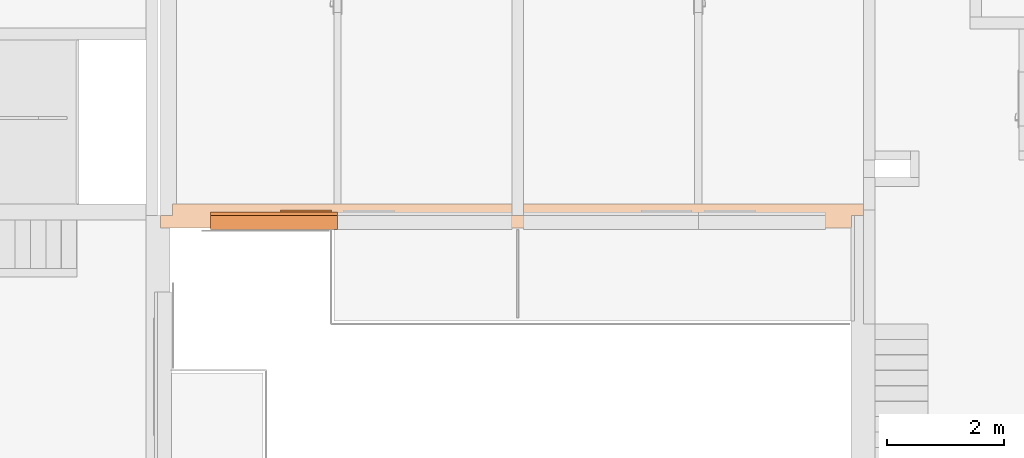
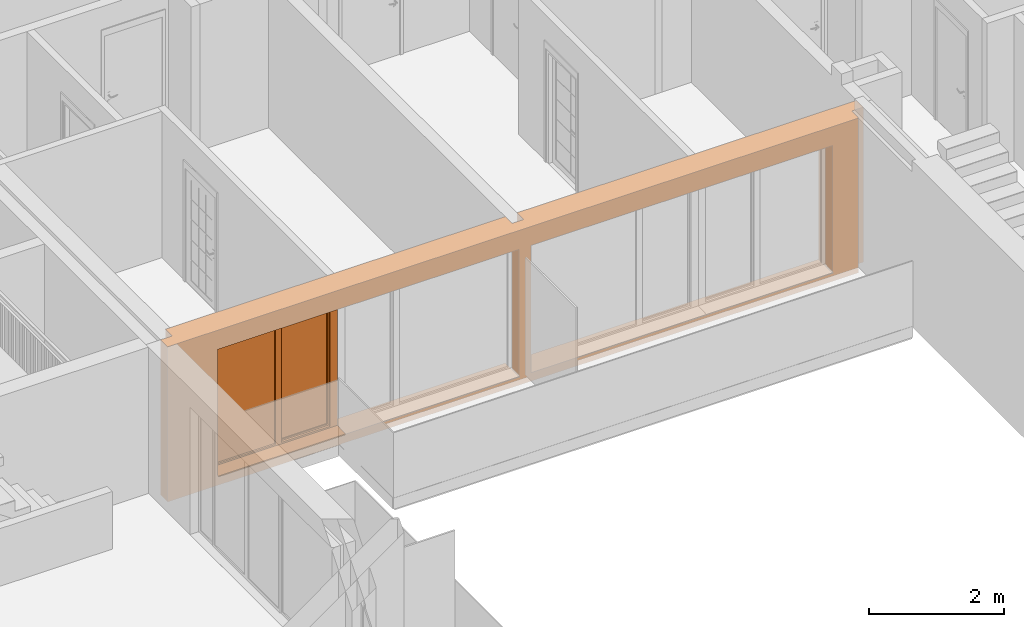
# One storey, part 42 of 61: 1 proxy, 4 openings, plus 1 element that does not belong to this part.
"""IFC2X3 building model written with IfcOpenShell, lengths in millimetres."""

from ifc_helpers import new_model, entity, si_unit, converted_unit, derived_unit, money_unit, direction, frame, origin_with_axes, origin_2d_with_axis, place, context, subcontext, project, spatial, rectangle, extrude, open_shell, faceted_brep, surface_model, source, transform, mapped, material, material_list, type_object, element, fill, save


model = new_model("IFC2X3")

# Units and contexts
model_context = context("Model", 3, precision=0.01, world=origin_with_axes(), true_north=direction((0.34421633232, 0.938890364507)))
body_context = subcontext(model_context, "Body", "Model", "MODEL_VIEW")
ifc_project = project(units=[si_unit("LENGTHUNIT", "METRE", prefix="MILLI"), si_unit("AREAUNIT", "SQUARE_METRE"), si_unit("VOLUMEUNIT", "CUBIC_METRE"), converted_unit("PLANEANGLEUNIT", "DEGREE", entity("IfcPlaneAngleMeasure", 0.0174532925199), si_unit("PLANEANGLEUNIT", "RADIAN"), dimensions=[0, 0, 0, 0, 0, 0, 0]), si_unit("SOLIDANGLEUNIT", "STERADIAN"), money_unit("USD"), converted_unit("TIMEUNIT", "Year", entity("IfcTimeMeasure", 31556926.0), si_unit("TIMEUNIT", "SECOND"), dimensions=[0, 0, 1, 0, 0, 0, 0]), si_unit("MASSUNIT", "GRAM", prefix="KILO"), si_unit("THERMODYNAMICTEMPERATUREUNIT", "DEGREE_CELSIUS"), si_unit("LUMINOUSINTENSITYUNIT", "LUMEN"), si_unit("ENERGYUNIT", "JOULE", prefix="MEGA"), derived_unit("THERMALCONDUCTANCEUNIT", [(si_unit("POWERUNIT", "WATT"), 1), (si_unit("LENGTHUNIT", "METRE"), -1), (si_unit("THERMODYNAMICTEMPERATUREUNIT", "KELVIN"), -1)]), derived_unit("SPECIFICHEATCAPACITYUNIT", [(si_unit("ENERGYUNIT", "JOULE"), 1), (si_unit("MASSUNIT", "GRAM", prefix="KILO"), -1), (si_unit("THERMODYNAMICTEMPERATUREUNIT", "KELVIN"), -1)]), derived_unit("MASSDENSITYUNIT", [(si_unit("MASSUNIT", "GRAM", prefix="KILO"), 1), (si_unit("VOLUMEUNIT", "CUBIC_METRE"), -1)])], contexts=[model_context])

# Site, building, storey
site_placement = place(None, origin_with_axes())
site = spatial("IfcSite", under=ifc_project, at=site_placement, Name="USTRONIE MORSKIE", CompositionType="ELEMENT")
building_placement = place(site_placement, origin_with_axes())
building = spatial("IfcBuilding", under=site, at=building_placement, Name="Budynek", CompositionType="ELEMENT")
storey_placement = place(building_placement, frame((0.0, 0.0, 13000.0), z_axis=(0.0, 0.0, 1.0), x_axis=(1.0, 0.0, 0.0)))
storey = spatial("IfcBuildingStorey", under=building, at=storey_placement, Name="PIĘTRO 4", CompositionType="ELEMENT", Elevation=13000.0)

# Proxies, openings
ifc_material_1 = material(Name="Tynk zewnętrzny")
ifc_material_2 = material(Name="Wełna ELEW")
ifc_material_3 = material(Name="Beton konstrukcyjny B25")
ifc_material_list = material_list([ifc_material_1, ifc_material_2, ifc_material_3])
building_element_proxy_type_1 = type_object("IfcBuildingElementProxyType", Name="20+20 410", PredefinedType="NOTDEFINED")
proxy_1_placement = place(storey_placement, frame((379317.920919, 726901.199036, -160.0), z_axis=(0.0, 0.0, 1.0), x_axis=(-1.0, 0.0, 0.0)))
proxy_1 = element("IfcBuildingElementProxy", 1, at=proxy_1_placement, inside=storey, type_object=building_element_proxy_type_1, material=ifc_material_list, Name="SZ-01", context=body_context, shape_type="Brep", body=[
    faceted_brep([(12100.0, 300.0, 2800.00000171), (310.0, 300.0, 2800.00000171), (310.0, 300.0, 110.0), (9139.98064962, 300.0, 110.0), (9139.98064962, 300.0, 85.0), (9139.98064962, 300.0, 5.0), (9139.98064962, 300.0, 0.0), (12100.0, 300.0, 0.0), (310.0, 310.0, 2800.00000171), (12100.0, 310.0, 2800.00000171), (310.0, 310.0, 110.0), (9139.98064962, 310.0, 110.0), (9139.98064962, 310.0, 85.0), (9139.98064962, 310.0, 5.0), (9139.98064962, 310.0, 0.0), (12100.0, 310.0, 0.0)], [[[0, 1, 2, 3, 4, 5, 6, 7]], [[8, 1, 0, 9]], [[1, 8, 10, 2]], [[3, 2, 10, 11]], [[4, 3, 11, 12]], [[4, 12, 13, 5]], [[5, 13, 14, 6]], [[6, 14, 15, 7]], [[9, 0, 7, 15]], [[8, 9, 15, 14, 13, 12, 11, 10]]]),
    faceted_brep([(12100.0, 100.0, 2800.00000171), (300.0, 100.0, 2800.00000171), (300.0, 100.0, 0.0), (12100.0, 100.0, 0.0), (300.0, 300.0, 2800.00000171), (12100.0, 300.0, 2800.00000171), (300.0, 300.0, 0.0), (12100.0, 300.0, 0.0)], [[[0, 1, 2, 3]], [[4, 1, 0, 5]], [[1, 4, 6, 2]], [[3, 2, 6, 7]], [[5, 0, 3, 7]], [[4, 5, 7, 6]]]),
    faceted_brep([(11900.0, -100.0, 2800.0), (6100.0, -100.0, 2800.0), (6100.0, -100.0, 0.0), (11900.0, -100.0, 0.0), (6100.0, 100.0, 2800.0), (11900.0, 100.0, 2800.0), (6100.0, 100.0, 0.0), (11900.0, 100.0, 0.0)], [[[0, 1, 2, 3]], [[4, 1, 0, 5]], [[1, 4, 6, 2]], [[3, 2, 6, 7]], [[5, 0, 3, 7]], [[4, 5, 7, 6]]]),
    faceted_brep([(5900.0, -100.0, 2800.0), (100.0, -100.0, 2800.0), (100.0, -100.0, 0.0), (5900.0, -100.0, 0.0), (100.0, 0.0, 2800.0), (5900.0, 100.0, 2800.0), (100.0, 100.0, 2800.0), (100.0, 0.0, 0.0), (100.0, 100.0, 0.0), (5900.0, 100.0, 0.0)], [[[0, 1, 2, 3]], [[4, 1, 0, 5, 6]], [[1, 4, 7, 2]], [[2, 7, 8, 9, 3]], [[5, 0, 3, 9]], [[6, 5, 9, 8]], [[4, 6, 8, 7]]]),
])
opening_1_placement = place(proxy_1_placement, frame((4410.00967519, 0.0, 160.0), z_axis=(0.0, 0.0, 1.0), x_axis=(1.0, 0.0, 0.0)))
element("IfcOpeningElement", 2, at=opening_1_placement, cuts=proxy_1, Name="Wz.05", context=body_context, shape_type="SweptSolid", body=[
    extrude(rectangle(XDim=2979.98064962, YDim=2300.0, at=origin_2d_with_axis()), frame((0.0, 99.9999999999, 1150.0), z_axis=(0.0, -1.0, 0.0), x_axis=(-1.0, 0.0, 0.0)), (0.0, 0.0, -1.0), 620.0),
    extrude(rectangle(XDim=2979.98064962, YDim=2300.0, at=origin_2d_with_axis()), frame((0.0, 100.0, 1150.0), z_axis=(0.0, 1.0, 0.0), x_axis=(-1.0, 0.0, 0.0)), (0.0, 0.0, -1.0), 610.0),
])
opening_2_placement = place(proxy_1_placement, frame((1835.01935038, 0.0, 160.0), z_axis=(0.0, 0.0, 1.0), x_axis=(1.0, 0.0, 0.0)))
element("IfcOpeningElement", 3, at=opening_2_placement, cuts=proxy_1, Name="Wz.05", context=body_context, shape_type="SweptSolid", body=[
    extrude(rectangle(XDim=2170.0, YDim=2300.0, at=origin_2d_with_axis()), frame((0.0, 99.9999999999, 1150.0), z_axis=(0.0, 1.0, 0.0), x_axis=(1.0, 0.0, 0.0)), (0.0, 0.0, 1.0), 620.0),
    extrude(rectangle(XDim=2170.0, YDim=2300.0, at=origin_2d_with_axis()), frame((0.0, 100.0, 1150.0), z_axis=(0.0, -1.0, 0.0), x_axis=(1.0, 0.0, 0.0)), (0.0, 0.0, 1.0), 610.0),
])
opening_3_placement = place(proxy_1_placement, frame((7589.99032481, 0.0, 160.0), z_axis=(0.0, 0.0, 1.0), x_axis=(1.0, 0.0, 0.0)))
element("IfcOpeningElement", 4, at=opening_3_placement, cuts=proxy_1, Name="Wz.05", context=body_context, shape_type="SweptSolid", body=[
    extrude(rectangle(XDim=2979.98064962, YDim=2300.0, at=origin_2d_with_axis()), frame((0.0, 99.9999999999, 1150.0), z_axis=(0.0, 1.0, 0.0), x_axis=(1.0, 0.0, 0.0)), (0.0, 0.0, 1.0), 620.0),
    extrude(rectangle(XDim=2979.98064962, YDim=2300.0, at=origin_2d_with_axis()), frame((0.0, 100.0, 1150.0), z_axis=(0.0, -1.0, 0.0), x_axis=(1.0, 0.0, 0.0)), (0.0, 0.0, 1.0), 610.0),
])
opening_4_placement = place(proxy_1_placement, frame((10164.9806496, 0.0, 160.0), z_axis=(0.0, 0.0, 1.0), x_axis=(1.0, 0.0, 0.0)))
opening_4 = element("IfcOpeningElement", 5, at=opening_4_placement, cuts=proxy_1, Name="Wz.05", context=body_context, shape_type="SweptSolid", body=[
    extrude(rectangle(XDim=2170.0, YDim=2300.0, at=origin_2d_with_axis()), frame((0.0, 99.9999999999, 1150.0), z_axis=(0.0, -1.0, 0.0), x_axis=(-1.0, 0.0, 0.0)), (0.0, 0.0, -1.0), 620.0),
    extrude(rectangle(XDim=2170.0, YDim=2300.0, at=origin_2d_with_axis()), frame((0.0, 100.0, 1150.0), z_axis=(0.0, 1.0, 0.0), x_axis=(-1.0, 0.0, 0.0)), (0.0, 0.0, -1.0), 610.0),
])
building_element_proxy_type_2 = type_object("IfcBuildingElementProxyType", Name="Okno podwójne 23", PredefinedType="NOTDEFINED")
shared_shape = source(origin_with_axes(), body_context, "Body", "SurfaceModel", [
    surface_model("IfcShellBasedSurfaceModel", [(-1085.0, -61.0, 50.0), (-1085.0, -61.0, 40.0), (1085.0, -61.0, 40.0), (1085.0, -61.0, 50.0), (-1085.0, -300.0, 28.5714285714), (1085.0, -300.0, 28.5714285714), (-1085.0, -300.0, 8.57142857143), (1085.0, -300.0, 8.57142857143), (-1085.0, -290.0, 18.5714285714), (1085.0, -290.0, 18.5714285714)], [open_shell([[[0, 1, 2, 3]], [[1, 4, 5, 2]], [[4, 6, 7, 5]], [[6, 8, 9, 7]]])]),
    faceted_brep([(960.0, -20.0, 2235.0), (960.0, -60.0, 2235.0), (1085.0, -60.0, 2235.0), (1085.0, 0.0, 2235.0), (980.0, 0.0, 2235.0), (980.0, -20.0, 2235.0), (960.0, -20.0, 65.0), (960.0, -60.0, 65.0), (1085.0, -60.0, 65.0), (1085.0, 0.0, 65.0), (980.0, 0.0, 65.0), (980.0, -20.0, 65.0)], [[[0, 1, 2, 3, 4, 5]], [[6, 7, 1, 0]], [[8, 2, 1, 7]], [[9, 3, 2, 8]], [[4, 3, 9, 10]], [[10, 11, 5, 4]], [[5, 11, 6, 0]], [[11, 10, 9, 8, 7, 6]]]),
    faceted_brep([(110.0, 0.0, 2235.0), (30.0, 0.0, 2235.0), (30.0, -60.0, 2235.0), (130.0, -60.0, 2235.0), (130.0, -20.0, 2235.0), (110.0, -20.0, 2235.0), (110.0, 0.0, 65.0), (30.0, 0.0, 65.0), (30.0, -60.0, 65.0), (130.0, -60.0, 65.0), (130.0, -20.0, 65.0), (110.0, -20.0, 65.0)], [[[0, 1, 2, 3, 4, 5]], [[6, 7, 1, 0]], [[1, 7, 8, 2]], [[9, 3, 2, 8]], [[4, 3, 9, 10]], [[10, 11, 5, 4]], [[5, 11, 6, 0]], [[11, 10, 9, 8, 7, 6]]]),
    faceted_brep([(960.0, -20.0, 65.0), (960.0, -60.0, 65.0), (1085.0, -60.0, 65.0), (1085.0, 0.0, 65.0), (980.0, 0.0, 65.0), (980.0, -20.0, 65.0), (130.0, -20.0, 65.0), (130.0, -60.0, 65.0), (-1085.0, -60.0, 65.0), (-1085.0, -60.0, 0.0), (1085.0, -60.0, 0.0), (30.0, -60.0, 65.0), (-1020.0, -60.0, 65.0), (1085.0, 0.0, 0.0), (110.0, 0.0, 45.0), (980.0, 0.0, 45.0), (-1085.0, 0.0, 0.0), (-1085.0, 0.0, 65.0), (-1020.0, 0.0, 65.0), (30.0, 0.0, 65.0), (110.0, 0.0, 65.0), (980.0, -20.0, 45.0), (110.0, -20.0, 45.0), (110.0, -20.0, 65.0)], [[[0, 1, 2, 3, 4, 5]], [[6, 7, 1, 0]], [[8, 9, 10, 2, 1, 7, 11, 12]], [[13, 3, 2, 10]], [[14, 15, 4, 3, 13, 16, 17, 18, 19, 20]], [[15, 21, 5, 4]], [[5, 21, 22, 23, 6, 0]], [[23, 20, 19, 11, 7, 6]], [[17, 16, 9, 8]], [[16, 13, 10, 9]], [[19, 18, 12, 11]], [[18, 17, 8, 12]], [[14, 22, 21, 15]], [[23, 22, 14, 20]]]),
    faceted_brep([(110.0, 0.0, 2235.0), (30.0, 0.0, 2235.0), (-1020.0, 0.0, 2235.0), (-1085.0, 0.0, 2235.0), (-1085.0, 0.0, 2300.0), (1085.0, 0.0, 2300.0), (1085.0, 0.0, 2235.0), (980.0, 0.0, 2235.0), (980.0, 0.0, 2255.0), (110.0, 0.0, 2255.0), (110.0, -20.0, 2235.0), (130.0, -20.0, 2235.0), (130.0, -60.0, 2235.0), (30.0, -60.0, 2235.0), (-1020.0, -60.0, 2235.0), (-1085.0, -60.0, 2235.0), (-1085.0, -60.0, 2300.0), (1085.0, -60.0, 2300.0), (1085.0, -60.0, 2235.0), (980.0, -20.0, 2235.0), (960.0, -60.0, 2235.0), (960.0, -20.0, 2235.0), (980.0, -20.0, 2255.0), (110.0, -20.0, 2255.0)], [[[0, 1, 2, 3, 4, 5, 6, 7, 8, 9]], [[10, 11, 12, 13, 1, 0]], [[2, 1, 13, 14]], [[3, 2, 14, 15]], [[4, 3, 15, 16]], [[5, 4, 16, 17]], [[6, 5, 17, 18]], [[19, 7, 6, 18, 20, 21]], [[7, 19, 22, 8]], [[8, 22, 23, 9]], [[9, 23, 10, 0]], [[21, 11, 10, 23, 22, 19]], [[21, 20, 12, 11]], [[12, 20, 18, 17, 16, 15, 14, 13]]]),
    faceted_brep([(-1020.0, -60.0, 2235.0), (-1020.0, 0.0, 2235.0), (-1085.0, 0.0, 2235.0), (-1085.0, -60.0, 2235.0), (-1020.0, -60.0, 65.0), (-1020.0, 0.0, 65.0), (-1085.0, 0.0, 65.0), (-1085.0, -60.0, 65.0)], [[[0, 1, 2, 3]], [[4, 5, 1, 0]], [[1, 5, 6, 2]], [[3, 2, 6, 7]], [[0, 3, 7, 4]], [[7, 6, 5, 4]]]),
    surface_model("IfcShellBasedSurfaceModel", [(-1020.0, -30.0, 65.0), (30.0, -30.0, 65.0), (30.0, -30.0, 2235.0), (-1020.0, -30.0, 2235.0)], [open_shell([[[0, 1, 2, 3]]])]),
    surface_model("IfcShellBasedSurfaceModel", [(-1020.0, -10.0, 65.0), (-1020.0, -10.0, 2235.0), (30.0, -10.0, 2235.0), (30.0, -10.0, 65.0)], [open_shell([[[0, 1, 2, 3]]])]),
    faceted_brep([(155.0, -20.0, 2210.0), (155.0, 40.0, 2210.0), (110.0, 40.0, 2210.0), (110.0, -20.0, 2210.0), (155.0, -20.0, 90.0), (155.0, 40.0, 90.0), (110.0, 40.0, 90.0), (110.0, -20.0, 90.0)], [[[0, 1, 2, 3]], [[4, 5, 1, 0]], [[1, 5, 6, 2]], [[3, 2, 6, 7]], [[0, 3, 7, 4]], [[7, 6, 5, 4]]]),
    faceted_brep([(935.0, -20.0, 90.0), (935.0, 40.0, 90.0), (980.0, 40.0, 90.0), (980.0, -20.0, 90.0), (935.0, -20.0, 2210.0), (935.0, 40.0, 2210.0), (980.0, 40.0, 2210.0), (980.0, -20.0, 2210.0)], [[[0, 1, 2, 3]], [[4, 5, 1, 0]], [[1, 5, 6, 2]], [[3, 2, 6, 7]], [[0, 3, 7, 4]], [[7, 6, 5, 4]]]),
    faceted_brep([(980.0, -20.0, 45.0), (980.0, 40.0, 45.0), (980.0, 40.0, 90.0), (980.0, -20.0, 90.0), (110.0, -20.0, 45.0), (110.0, 40.0, 45.0), (110.0, 40.0, 90.0), (155.0, 40.0, 90.0), (935.0, 40.0, 90.0), (935.0, -20.0, 90.0), (155.0, -20.0, 90.0), (110.0, -20.0, 90.0)], [[[0, 1, 2, 3]], [[4, 5, 1, 0]], [[1, 5, 6, 7, 8, 2]], [[3, 2, 8, 9]], [[0, 3, 9, 10, 11, 4]], [[11, 6, 5, 4]], [[10, 7, 6, 11]], [[9, 8, 7, 10]]]),
    faceted_brep([(110.0, -20.0, 2255.0), (110.0, 40.0, 2255.0), (110.0, 40.0, 2210.0), (110.0, -20.0, 2210.0), (980.0, -20.0, 2255.0), (980.0, 40.0, 2255.0), (980.0, 40.0, 2210.0), (935.0, 40.0, 2210.0), (155.0, 40.0, 2210.0), (155.0, -20.0, 2210.0), (935.0, -20.0, 2210.0), (980.0, -20.0, 2210.0)], [[[0, 1, 2, 3]], [[4, 5, 1, 0]], [[1, 5, 6, 7, 8, 2]], [[3, 2, 8, 9]], [[0, 3, 9, 10, 11, 4]], [[11, 6, 5, 4]], [[10, 7, 6, 11]], [[9, 8, 7, 10]]]),
    surface_model("IfcShellBasedSurfaceModel", [(155.0, 0.0, 90.0), (935.0, 0.0, 90.0), (935.0, 0.0, 2210.0), (155.0, 0.0, 2210.0)], [open_shell([[[0, 1, 2, 3]]])]),
    surface_model("IfcShellBasedSurfaceModel", [(155.0, 20.0, 90.0), (155.0, 20.0, 2210.0), (935.0, 20.0, 2210.0), (935.0, 20.0, 90.0)], [open_shell([[[0, 1, 2, 3]]])]),
])
proxy_2_placement = place(opening_4_placement, frame((1085.0, 0.0, 0.0), z_axis=(0.0, 0.0, 1.0), x_axis=(-1.0, 0.0, 0.0)))
proxy_2 = element("IfcBuildingElementProxy", 6, at=proxy_2_placement, inside=storey, type_object=building_element_proxy_type_2, Name="Wz.05", context=body_context, shape_type="MappedRepresentation", body=[
    mapped(shared_shape, transform((1085.0, -40.0, 0.0))),
])
fill(opening_4, proxy_2)

save(model, "model.ifc")
